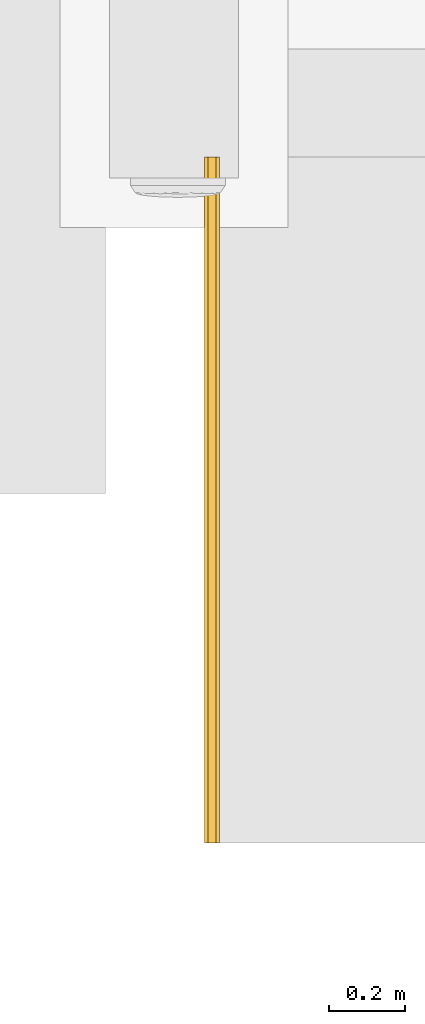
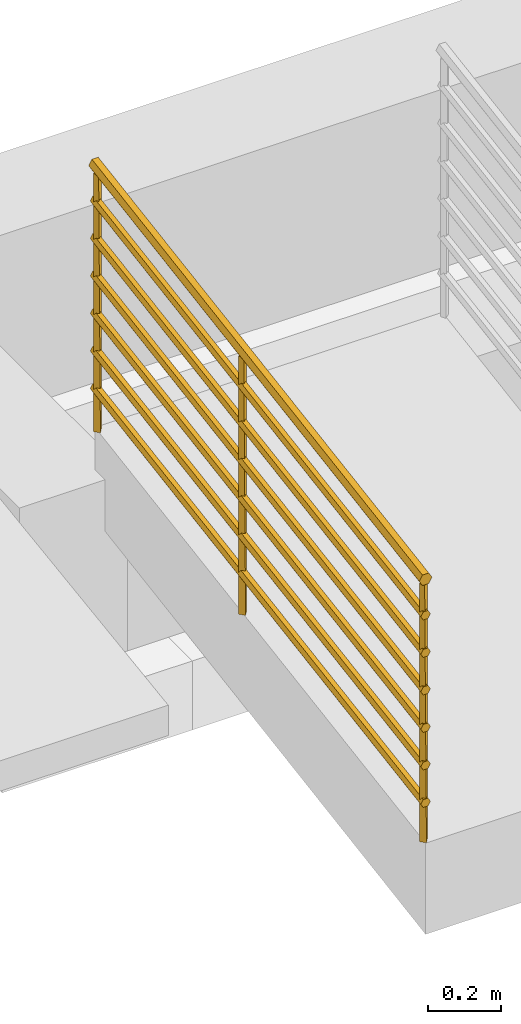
# One storey, part 3 of 8: 1 railing, 1 element without a shape of its own.
"""IFC2X3 building model written with IfcOpenShell, lengths in millimetres."""

from ifc_helpers import new_model, entity, si_unit, converted_unit, derived_unit, direction, frame, origin, place, context, subcontext, project, spatial, faceted_brep, element, aggregate, save


model = new_model("IFC2X3")

# Units and contexts
model_context = context("Model", 3, precision=0.01, world=origin(), true_north=direction((6.12303176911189e-17, 1.0)))
body_context = subcontext(model_context, "Body", "Model", "MODEL_VIEW")
ifc_project = project(units=[si_unit("LENGTHUNIT", "METRE", prefix="MILLI"), si_unit("AREAUNIT", "SQUARE_METRE"), si_unit("VOLUMEUNIT", "CUBIC_METRE"), converted_unit("PLANEANGLEUNIT", "DEGREE", entity("IfcRatioMeasure", 0.0174532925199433), si_unit("PLANEANGLEUNIT", "RADIAN"), dimensions=[0, 0, 0, 0, 0, 0, 0]), si_unit("MASSUNIT", "GRAM", prefix="KILO"), derived_unit("MASSDENSITYUNIT", [(si_unit("MASSUNIT", "GRAM", prefix="KILO"), 1), (si_unit("LENGTHUNIT", "METRE"), -3)]), si_unit("TIMEUNIT", "SECOND"), si_unit("FREQUENCYUNIT", "HERTZ"), si_unit("THERMODYNAMICTEMPERATUREUNIT", "DEGREE_CELSIUS"), derived_unit("THERMALTRANSMITTANCEUNIT", [(si_unit("MASSUNIT", "GRAM", prefix="KILO"), 1), (si_unit("THERMODYNAMICTEMPERATUREUNIT", "KELVIN"), -1), (si_unit("TIMEUNIT", "SECOND"), -3)]), derived_unit("VOLUMETRICFLOWRATEUNIT", [(si_unit("LENGTHUNIT", "METRE"), 3), (si_unit("TIMEUNIT", "SECOND"), -1)]), si_unit("ELECTRICCURRENTUNIT", "AMPERE"), si_unit("ELECTRICVOLTAGEUNIT", "VOLT"), si_unit("POWERUNIT", "WATT"), si_unit("FORCEUNIT", "NEWTON", prefix="KILO"), si_unit("ILLUMINANCEUNIT", "LUX"), si_unit("LUMINOUSFLUXUNIT", "LUMEN"), si_unit("LUMINOUSINTENSITYUNIT", "CANDELA"), derived_unit("USERDEFINED", [(si_unit("MASSUNIT", "GRAM", prefix="KILO"), -1), (si_unit("LENGTHUNIT", "METRE"), -2), (si_unit("TIMEUNIT", "SECOND"), 3), (si_unit("LUMINOUSFLUXUNIT", "LUMEN"), 1)]), derived_unit("LINEARVELOCITYUNIT", [(si_unit("LENGTHUNIT", "METRE"), 1), (si_unit("TIMEUNIT", "SECOND"), -1)]), si_unit("PRESSUREUNIT", "PASCAL"), derived_unit("USERDEFINED", [(si_unit("LENGTHUNIT", "METRE"), -2), (si_unit("MASSUNIT", "GRAM", prefix="KILO"), 1), (si_unit("TIMEUNIT", "SECOND"), -2)])], contexts=[model_context])

# Site, building, storey
site_placement = place(None, origin())
site = spatial("IfcSite", under=ifc_project, at=site_placement, Name="Surface", CompositionType="ELEMENT")
building_placement = place(site_placement, origin())
building = spatial("IfcBuilding", under=site, at=building_placement, CompositionType="ELEMENT")
storey_placement = place(building_placement, frame((0.0, 0.0, -445.0)))
storey = spatial("IfcBuildingStorey", under=building, at=storey_placement, Name="T.O.F", CompositionType="ELEMENT", Elevation=-445.0)

# Ramp, railing
ramp_placement = place(storey_placement, origin())
ramp = element("IfcRamp", 1, at=ramp_placement, inside=storey, Name="Ramp:Ramp 2", ObjectType="Ramp:Ramp 2", ShapeType="NOTDEFINED")
railing_placement = place(ramp_placement, frame((-8808.4704423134, 1829.38365159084, 443.403360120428)))
railing = element("IfcRailing", 2, at=railing_placement, Name="Railing:900mm Pipe", ObjectType="Railing:900mm Pipe", PredefinedType="NOTDEFINED", context=body_context, shape_type="Brep", body=[
    faceted_brep([(34.0952722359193, 1001.27409890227, 162.886962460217), (24.376783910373, 1013.46069780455, 1024.36362316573), (34.0952722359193, 1001.27409890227, 1022.3383542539), (18.8137605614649, 1013.46069780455, 164.912231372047), (9.09527223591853, 1001.27409890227, 162.886962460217), (9.09527223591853, 1001.27409890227, 1022.3383542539), (18.8137605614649, 989.0875, 1020.31308534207), (24.376783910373, 989.0875, 160.861693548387)], [[[0, 1, 2]], [[1, 0, 3]], [[3, 4, 5]], [[3, 5, 1]], [[5, 4, 6]], [[6, 4, 7]], [[7, 0, 2]], [[7, 2, 6]], [[2, 1, 5, 6]], [[0, 7, 4, 3]]]),
    faceted_brep([(34.0952722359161, 1793.95643756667, 290.738952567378), (24.3767839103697, 1806.14303646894, 1152.21561327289), (34.0952722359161, 1793.95643756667, 1150.19034436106), (18.8137605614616, 1806.14303646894, 292.764221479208), (9.09527223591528, 1793.95643756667, 290.738952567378), (9.09527223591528, 1793.95643756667, 1150.19034436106), (18.8137605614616, 1781.7698386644, 1148.16507544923), (24.3767839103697, 1781.7698386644, 288.713683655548)], [[[0, 1, 2]], [[1, 0, 3]], [[3, 4, 5]], [[3, 5, 1]], [[5, 4, 6]], [[6, 4, 7]], [[7, 0, 2]], [[7, 2, 6]], [[2, 1, 5, 6]], [[0, 7, 4, 3]]]),
    faceted_brep([(34.0952722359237, 13.7740989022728, 3.6127689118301), (24.3767839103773, 25.9606978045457, 865.08942961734), (34.0952722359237, 13.7740989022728, 863.06416070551), (18.8137605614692, 25.9606978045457, 5.63803782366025), (9.09527223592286, 13.7740989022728, 3.6127689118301), (9.09527223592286, 13.7740989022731, 863.06416070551), (18.8137605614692, 1.58749999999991, 861.03889179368), (24.3767839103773, 1.58749999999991, 1.58749999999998)], [[[0, 1, 2]], [[1, 0, 3]], [[3, 4, 5]], [[3, 5, 1]], [[5, 4, 6]], [[6, 4, 7]], [[7, 0, 2]], [[7, 2, 6]], [[2, 1, 5, 6]], [[0, 7, 4, 3]]]),
    faceted_brep([(29.0952722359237, 1.27409890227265, 748.244517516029), (30.9702722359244, 1.27409890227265, 751.534083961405), (32.845272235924, 1.27409890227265, 754.823650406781), (34.7202722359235, 1.27409890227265, 758.113216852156), (36.5952722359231, 1.27409890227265, 761.402783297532), (35.1180665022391, 1.27409890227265, 763.994445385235), (33.6408607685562, 1.27409890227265, 766.586107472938), (31.3680665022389, 1.27409890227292, 770.573578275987), (29.0952722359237, 1.27409890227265, 774.561049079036), (25.3452722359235, 1.27409890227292, 774.561049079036), (21.5952722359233, 1.27409890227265, 774.561049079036), (17.845272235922, 1.27409890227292, 774.561049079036), (14.0952722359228, 1.27409890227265, 774.561049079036), (12.2202722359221, 1.27409890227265, 771.27148263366), (10.3452722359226, 1.27409890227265, 767.981916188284), (8.07247796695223, 1.27409890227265, 763.994445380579), (6.59527223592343, 1.27409890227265, 761.402783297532), (8.47027223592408, 1.27409890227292, 758.113216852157), (10.3452722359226, 1.27409890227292, 754.823650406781), (12.2202722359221, 1.27409890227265, 751.534083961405), (14.0952722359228, 1.27409890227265, 748.244517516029), (17.845272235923, 1.27409890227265, 748.244517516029), (21.5952722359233, 1.27409890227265, 748.244517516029), (25.3452722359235, 1.27409890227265, 748.244517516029), (11.8224779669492, 1806.45643756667, 1043.39043004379), (9.54968369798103, 1806.45643756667, 1047.37790085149), (8.07247796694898, 1806.45643756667, 1049.96956293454), (6.59527223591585, 1806.45643756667, 1052.5612250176), (8.47027223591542, 1806.45643756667, 1055.85079146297), (10.3452722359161, 1806.45643756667, 1059.14035790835), (12.2202722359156, 1806.45643756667, 1062.42992435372), (14.0952722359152, 1806.45643756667, 1065.7194907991), (17.8452722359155, 1806.45643756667, 1065.7194907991), (21.5952722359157, 1806.45643756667, 1065.7194907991), (25.3452722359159, 1806.45643756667, 1065.7194907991), (29.0952722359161, 1806.45643756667, 1065.7194907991), (30.9702722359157, 1806.45643756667, 1062.42992435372), (32.8452722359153, 1806.45643756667, 1059.14035790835), (34.7202722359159, 1806.45643756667, 1055.85079146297), (36.5952722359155, 1806.45643756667, 1052.5612250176), (35.1180665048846, 1806.45643756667, 1049.96956293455), (32.8452722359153, 1806.45643756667, 1045.98209212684), (30.9702722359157, 1806.45643756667, 1042.69252568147), (29.0952722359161, 1806.45643756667, 1039.40295923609), (25.3452722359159, 1806.45643756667, 1039.40295923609), (21.5952722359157, 1806.45643756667, 1039.40295923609), (17.8452722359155, 1806.45643756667, 1039.40295923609), (14.0952722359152, 1806.45643756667, 1039.40295923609)], [[[0, 1, 2, 3, 4, 5, 6, 7, 8, 9, 10, 11, 12, 13, 14, 15, 16, 17, 18, 19, 20, 21, 22, 23]], [[24, 25, 26, 27, 28, 29, 30, 31, 32, 33, 34, 35, 36, 37, 38, 39, 40, 41, 42, 43, 44, 45, 46, 47]], [[47, 20, 19, 18, 17, 16, 27, 26, 25, 24]], [[44, 43, 0, 23, 22, 21, 20, 47, 46, 45]], [[40, 39, 4, 3, 2, 1, 0, 43, 42, 41]], [[8, 7, 6, 5, 4, 39, 38, 37, 36, 35]], [[28, 27, 16, 15, 14, 13, 12, 31, 30, 29]], [[10, 9, 8, 35, 34, 33, 32, 31, 12, 11]]]),
    faceted_brep([(29.0952722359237, 1.27409890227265, 623.244517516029), (30.9702722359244, 1.27409890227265, 626.534083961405), (32.845272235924, 1.27409890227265, 629.823650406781), (34.7202722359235, 1.27409890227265, 633.113216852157), (36.5952722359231, 1.27409890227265, 636.402783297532), (35.1180665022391, 1.27409890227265, 638.994445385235), (33.6408607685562, 1.27409890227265, 641.586107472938), (31.3680665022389, 1.27409890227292, 645.573578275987), (29.0952722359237, 1.27409890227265, 649.561049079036), (25.3452722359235, 1.27409890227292, 649.561049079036), (21.5952722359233, 1.27409890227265, 649.561049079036), (17.845272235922, 1.27409890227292, 649.561049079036), (14.0952722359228, 1.27409890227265, 649.561049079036), (12.2202722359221, 1.27409890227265, 646.27148263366), (10.3452722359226, 1.27409890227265, 642.981916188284), (8.07247796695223, 1.27409890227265, 638.994445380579), (6.59527223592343, 1.27409890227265, 636.402783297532), (8.47027223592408, 1.27409890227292, 633.113216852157), (10.3452722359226, 1.27409890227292, 629.823650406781), (12.2202722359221, 1.27409890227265, 626.534083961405), (14.0952722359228, 1.27409890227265, 623.244517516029), (17.845272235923, 1.27409890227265, 623.244517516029), (21.5952722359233, 1.27409890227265, 623.244517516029), (25.3452722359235, 1.27409890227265, 623.244517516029), (11.8224779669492, 1806.45643756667, 918.390430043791), (9.54968369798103, 1806.45643756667, 922.37790085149), (8.07247796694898, 1806.45643756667, 924.969562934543), (6.59527223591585, 1806.45643756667, 927.561225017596), (8.47027223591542, 1806.45643756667, 930.850791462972), (10.3452722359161, 1806.45643756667, 934.140357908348), (12.2202722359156, 1806.45643756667, 937.429924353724), (14.0952722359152, 1806.45643756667, 940.7194907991), (17.8452722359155, 1806.45643756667, 940.7194907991), (21.5952722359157, 1806.45643756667, 940.7194907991), (25.3452722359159, 1806.45643756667, 940.7194907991), (29.0952722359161, 1806.45643756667, 940.7194907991), (30.9702722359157, 1806.45643756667, 937.429924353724), (32.8452722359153, 1806.45643756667, 934.140357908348), (34.7202722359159, 1806.45643756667, 930.850791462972), (36.5952722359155, 1806.45643756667, 927.561225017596), (35.1180665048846, 1806.45643756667, 924.969562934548), (32.8452722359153, 1806.45643756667, 920.982092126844), (30.9702722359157, 1806.45643756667, 917.692525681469), (29.0952722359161, 1806.45643756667, 914.402959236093), (25.3452722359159, 1806.45643756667, 914.402959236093), (21.5952722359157, 1806.45643756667, 914.402959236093), (17.8452722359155, 1806.45643756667, 914.402959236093), (14.0952722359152, 1806.45643756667, 914.402959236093)], [[[0, 1, 2, 3, 4, 5, 6, 7, 8, 9, 10, 11, 12, 13, 14, 15, 16, 17, 18, 19, 20, 21, 22, 23]], [[24, 25, 26, 27, 28, 29, 30, 31, 32, 33, 34, 35, 36, 37, 38, 39, 40, 41, 42, 43, 44, 45, 46, 47]], [[47, 20, 19, 18, 17, 16, 27, 26, 25, 24]], [[44, 43, 0, 23, 22, 21, 20, 47, 46, 45]], [[40, 39, 4, 3, 2, 1, 0, 43, 42, 41]], [[8, 7, 6, 5, 4, 39, 38, 37, 36, 35]], [[28, 27, 16, 15, 14, 13, 12, 31, 30, 29]], [[10, 9, 8, 35, 34, 33, 32, 31, 12, 11]]]),
    faceted_brep([(29.0952722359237, 1.27409890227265, 498.244517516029), (30.9702722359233, 1.27409890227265, 501.534083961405), (32.845272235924, 1.27409890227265, 504.823650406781), (34.7202722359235, 1.27409890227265, 508.113216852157), (36.5952722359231, 1.27409890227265, 511.402783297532), (35.1180665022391, 1.27409890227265, 513.994445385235), (33.6408607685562, 1.27409890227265, 516.586107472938), (31.36806650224, 1.27409890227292, 520.573578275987), (29.0952722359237, 1.27409890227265, 524.561049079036), (25.3452722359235, 1.27409890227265, 524.561049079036), (21.5952722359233, 1.27409890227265, 524.561049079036), (17.845272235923, 1.27409890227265, 524.561049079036), (14.0952722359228, 1.27409890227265, 524.561049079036), (12.2202722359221, 1.27409890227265, 521.27148263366), (10.3452722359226, 1.27409890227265, 517.981916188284), (8.07247796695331, 1.27409890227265, 513.994445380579), (6.59527223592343, 1.27409890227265, 511.402783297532), (8.47027223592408, 1.27409890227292, 508.113216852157), (10.3452722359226, 1.27409890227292, 504.823650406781), (12.2202722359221, 1.27409890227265, 501.534083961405), (14.0952722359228, 1.27409890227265, 498.244517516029), (17.845272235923, 1.27409890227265, 498.244517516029), (21.5952722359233, 1.27409890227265, 498.244517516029), (25.3452722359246, 1.27409890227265, 498.244517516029), (11.8224779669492, 1806.45643756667, 793.390430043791), (9.54968369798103, 1806.45643756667, 797.37790085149), (8.07247796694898, 1806.45643756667, 799.969562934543), (6.59527223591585, 1806.45643756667, 802.561225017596), (8.47027223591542, 1806.45643756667, 805.850791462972), (10.3452722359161, 1806.45643756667, 809.140357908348), (12.2202722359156, 1806.45643756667, 812.429924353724), (14.0952722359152, 1806.45643756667, 815.7194907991), (17.8452722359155, 1806.45643756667, 815.7194907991), (21.5952722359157, 1806.45643756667, 815.7194907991), (25.3452722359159, 1806.45643756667, 815.7194907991), (29.0952722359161, 1806.45643756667, 815.7194907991), (30.9702722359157, 1806.45643756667, 812.429924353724), (32.8452722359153, 1806.45643756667, 809.140357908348), (34.7202722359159, 1806.45643756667, 805.850791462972), (36.5952722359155, 1806.45643756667, 802.561225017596), (35.1180665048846, 1806.45643756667, 799.969562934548), (32.8452722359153, 1806.45643756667, 795.982092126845), (30.9702722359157, 1806.45643756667, 792.692525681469), (29.0952722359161, 1806.45643756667, 789.402959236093), (25.3452722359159, 1806.45643756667, 789.402959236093), (21.5952722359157, 1806.45643756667, 789.402959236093), (17.8452722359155, 1806.45643756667, 789.402959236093), (14.0952722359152, 1806.45643756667, 789.402959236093)], [[[0, 1, 2, 3, 4, 5, 6, 7, 8, 9, 10, 11, 12, 13, 14, 15, 16, 17, 18, 19, 20, 21, 22, 23]], [[24, 25, 26, 27, 28, 29, 30, 31, 32, 33, 34, 35, 36, 37, 38, 39, 40, 41, 42, 43, 44, 45, 46, 47]], [[47, 20, 19, 18, 17, 16, 27, 26, 25, 24]], [[44, 43, 0, 23, 22, 21, 20, 47, 46, 45]], [[40, 39, 4, 3, 2, 1, 0, 43, 42, 41]], [[8, 7, 6, 5, 4, 39, 38, 37, 36, 35]], [[28, 27, 16, 15, 14, 13, 12, 31, 30, 29]], [[10, 9, 8, 35, 34, 33, 32, 31, 12, 11]]]),
    faceted_brep([(29.0952722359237, 1.27409890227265, 373.244517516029), (30.9702722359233, 1.27409890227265, 376.534083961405), (32.845272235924, 1.27409890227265, 379.823650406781), (34.7202722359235, 1.27409890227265, 383.113216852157), (36.5952722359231, 1.27409890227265, 386.402783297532), (35.1180665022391, 1.27409890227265, 388.994445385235), (33.6408607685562, 1.27409890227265, 391.586107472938), (31.36806650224, 1.27409890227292, 395.573578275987), (29.0952722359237, 1.27409890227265, 399.561049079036), (25.3452722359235, 1.27409890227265, 399.561049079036), (21.5952722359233, 1.27409890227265, 399.561049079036), (17.845272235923, 1.27409890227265, 399.561049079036), (14.0952722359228, 1.27409890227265, 399.561049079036), (12.2202722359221, 1.27409890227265, 396.27148263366), (10.3452722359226, 1.27409890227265, 392.981916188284), (8.07247796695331, 1.27409890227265, 388.994445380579), (6.59527223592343, 1.27409890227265, 386.402783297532), (8.47027223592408, 1.27409890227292, 383.113216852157), (10.3452722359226, 1.27409890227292, 379.823650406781), (12.2202722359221, 1.27409890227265, 376.534083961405), (14.0952722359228, 1.27409890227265, 373.244517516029), (17.845272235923, 1.27409890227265, 373.244517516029), (21.5952722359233, 1.27409890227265, 373.244517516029), (25.3452722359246, 1.27409890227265, 373.244517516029), (11.8224779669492, 1806.45643756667, 668.390430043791), (9.54968369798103, 1806.45643756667, 672.37790085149), (8.07247796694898, 1806.45643756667, 674.969562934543), (6.59527223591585, 1806.45643756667, 677.561225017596), (8.47027223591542, 1806.45643756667, 680.850791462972), (10.3452722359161, 1806.45643756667, 684.140357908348), (12.2202722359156, 1806.45643756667, 687.429924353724), (14.0952722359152, 1806.45643756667, 690.7194907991), (17.8452722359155, 1806.45643756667, 690.7194907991), (21.5952722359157, 1806.45643756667, 690.7194907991), (25.3452722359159, 1806.45643756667, 690.7194907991), (29.0952722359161, 1806.45643756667, 690.7194907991), (30.9702722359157, 1806.45643756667, 687.429924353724), (32.8452722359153, 1806.45643756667, 684.140357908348), (34.7202722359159, 1806.45643756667, 680.850791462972), (36.5952722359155, 1806.45643756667, 677.561225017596), (35.1180665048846, 1806.45643756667, 674.969562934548), (32.8452722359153, 1806.45643756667, 670.982092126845), (30.9702722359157, 1806.45643756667, 667.692525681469), (29.0952722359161, 1806.45643756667, 664.402959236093), (25.3452722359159, 1806.45643756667, 664.402959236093), (21.5952722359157, 1806.45643756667, 664.402959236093), (17.8452722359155, 1806.45643756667, 664.402959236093), (14.0952722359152, 1806.45643756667, 664.402959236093)], [[[0, 1, 2, 3, 4, 5, 6, 7, 8, 9, 10, 11, 12, 13, 14, 15, 16, 17, 18, 19, 20, 21, 22, 23]], [[24, 25, 26, 27, 28, 29, 30, 31, 32, 33, 34, 35, 36, 37, 38, 39, 40, 41, 42, 43, 44, 45, 46, 47]], [[47, 20, 19, 18, 17, 16, 27, 26, 25, 24]], [[44, 43, 0, 23, 22, 21, 20, 47, 46, 45]], [[40, 39, 4, 3, 2, 1, 0, 43, 42, 41]], [[8, 7, 6, 5, 4, 39, 38, 37, 36, 35]], [[28, 27, 16, 15, 14, 13, 12, 31, 30, 29]], [[10, 9, 8, 35, 34, 33, 32, 31, 12, 11]]]),
    faceted_brep([(29.0952722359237, 1.27409890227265, 248.244517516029), (30.9702722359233, 1.27409890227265, 251.534083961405), (32.845272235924, 1.27409890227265, 254.823650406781), (34.7202722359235, 1.27409890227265, 258.113216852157), (36.5952722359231, 1.27409890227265, 261.402783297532), (35.1180665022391, 1.27409890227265, 263.994445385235), (33.6408607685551, 1.27409890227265, 266.586107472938), (31.36806650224, 1.27409890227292, 270.573578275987), (29.0952722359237, 1.27409890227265, 274.561049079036), (25.3452722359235, 1.27409890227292, 274.561049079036), (21.5952722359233, 1.27409890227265, 274.561049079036), (17.845272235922, 1.27409890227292, 274.561049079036), (14.0952722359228, 1.27409890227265, 274.561049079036), (12.2202722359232, 1.27409890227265, 271.27148263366), (10.3452722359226, 1.27409890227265, 267.981916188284), (8.07247796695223, 1.27409890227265, 263.994445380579), (6.59527223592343, 1.27409890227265, 261.402783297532), (8.47027223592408, 1.27409890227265, 258.113216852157), (10.3452722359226, 1.27409890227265, 254.823650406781), (12.2202722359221, 1.27409890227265, 251.534083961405), (14.0952722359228, 1.27409890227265, 248.244517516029), (17.845272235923, 1.27409890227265, 248.244517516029), (21.5952722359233, 1.27409890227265, 248.244517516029), (25.3452722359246, 1.27409890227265, 248.244517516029), (11.8224779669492, 1806.45643756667, 543.390430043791), (9.5496836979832, 1806.45643756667, 547.37790085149), (8.07247796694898, 1806.45643756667, 549.969562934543), (6.59527223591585, 1806.45643756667, 552.561225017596), (8.47027223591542, 1806.45643756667, 555.850791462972), (10.3452722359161, 1806.45643756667, 559.140357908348), (12.2202722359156, 1806.45643756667, 562.429924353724), (14.0952722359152, 1806.45643756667, 565.7194907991), (17.8452722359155, 1806.45643756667, 565.7194907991), (21.5952722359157, 1806.45643756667, 565.7194907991), (25.3452722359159, 1806.45643756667, 565.7194907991), (29.0952722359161, 1806.45643756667, 565.7194907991), (30.9702722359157, 1806.45643756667, 562.429924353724), (32.8452722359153, 1806.45643756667, 559.140357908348), (34.7202722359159, 1806.45643756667, 555.850791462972), (36.5952722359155, 1806.45643756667, 552.561225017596), (35.1180665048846, 1806.45643756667, 549.969562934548), (32.8452722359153, 1806.45643756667, 545.982092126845), (30.9702722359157, 1806.45643756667, 542.692525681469), (29.0952722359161, 1806.45643756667, 539.402959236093), (25.3452722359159, 1806.45643756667, 539.402959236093), (21.5952722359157, 1806.45643756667, 539.402959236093), (17.8452722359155, 1806.45643756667, 539.402959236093), (14.0952722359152, 1806.45643756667, 539.402959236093)], [[[0, 1, 2, 3, 4, 5, 6, 7, 8, 9, 10, 11, 12, 13, 14, 15, 16, 17, 18, 19, 20, 21, 22, 23]], [[24, 25, 26, 27, 28, 29, 30, 31, 32, 33, 34, 35, 36, 37, 38, 39, 40, 41, 42, 43, 44, 45, 46, 47]], [[47, 20, 19, 18, 17, 16, 27, 26, 25, 24]], [[44, 43, 0, 23, 22, 21, 20, 47, 46, 45]], [[40, 39, 4, 3, 2, 1, 0, 43, 42, 41]], [[8, 7, 6, 5, 4, 39, 38, 37, 36, 35]], [[28, 27, 16, 15, 14, 13, 12, 31, 30, 29]], [[10, 9, 8, 35, 34, 33, 32, 31, 12, 11]]]),
    faceted_brep([(29.0952722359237, 1.27409890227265, 123.244517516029), (30.9702722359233, 1.27409890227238, 126.534083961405), (32.845272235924, 1.27409890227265, 129.823650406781), (34.7202722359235, 1.27409890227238, 133.113216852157), (36.5952722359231, 1.27409890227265, 136.402783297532), (35.1180665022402, 1.27409890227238, 138.994445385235), (33.6408607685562, 1.27409890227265, 141.586107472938), (31.3680665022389, 1.27409890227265, 145.573578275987), (29.0952722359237, 1.27409890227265, 149.561049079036), (25.3452722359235, 1.27409890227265, 149.561049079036), (21.5952722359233, 1.27409890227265, 149.561049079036), (17.845272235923, 1.27409890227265, 149.561049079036), (14.0952722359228, 1.27409890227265, 149.561049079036), (12.2202722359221, 1.27409890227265, 146.27148263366), (10.3452722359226, 1.27409890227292, 142.981916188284), (8.07247796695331, 1.27409890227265, 138.994445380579), (6.59527223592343, 1.27409890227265, 136.402783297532), (8.470272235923, 1.27409890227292, 133.113216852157), (10.3452722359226, 1.27409890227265, 129.823650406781), (12.2202722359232, 1.27409890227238, 126.534083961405), (14.0952722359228, 1.27409890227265, 123.244517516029), (17.845272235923, 1.27409890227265, 123.244517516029), (21.5952722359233, 1.27409890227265, 123.244517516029), (25.3452722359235, 1.27409890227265, 123.244517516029), (11.8224779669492, 1806.45643756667, 418.390430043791), (9.5496836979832, 1806.45643756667, 422.37790085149), (8.07247796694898, 1806.45643756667, 424.969562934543), (6.59527223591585, 1806.45643756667, 427.561225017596), (8.47027223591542, 1806.45643756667, 430.850791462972), (10.3452722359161, 1806.45643756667, 434.140357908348), (12.2202722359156, 1806.45643756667, 437.429924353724), (14.0952722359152, 1806.45643756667, 440.7194907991), (17.8452722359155, 1806.45643756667, 440.7194907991), (21.5952722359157, 1806.45643756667, 440.7194907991), (25.3452722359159, 1806.45643756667, 440.7194907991), (29.0952722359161, 1806.45643756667, 440.7194907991), (30.9702722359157, 1806.45643756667, 437.429924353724), (32.8452722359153, 1806.45643756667, 434.140357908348), (34.7202722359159, 1806.45643756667, 430.850791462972), (36.5952722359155, 1806.45643756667, 427.561225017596), (35.1180665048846, 1806.45643756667, 424.969562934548), (32.8452722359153, 1806.45643756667, 420.982092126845), (30.9702722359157, 1806.45643756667, 417.692525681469), (29.0952722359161, 1806.45643756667, 414.402959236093), (25.3452722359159, 1806.45643756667, 414.402959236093), (21.5952722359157, 1806.45643756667, 414.402959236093), (17.8452722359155, 1806.45643756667, 414.402959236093), (14.0952722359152, 1806.45643756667, 414.402959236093)], [[[0, 1, 2, 3, 4, 5, 6, 7, 8, 9, 10, 11, 12, 13, 14, 15, 16, 17, 18, 19, 20, 21, 22, 23]], [[24, 25, 26, 27, 28, 29, 30, 31, 32, 33, 34, 35, 36, 37, 38, 39, 40, 41, 42, 43, 44, 45, 46, 47]], [[47, 20, 19, 18, 17, 16, 27, 26, 25, 24]], [[44, 43, 0, 23, 22, 21, 20, 47, 46, 45]], [[40, 39, 4, 3, 2, 1, 0, 43, 42, 41]], [[8, 7, 6, 5, 4, 39, 38, 37, 36, 35]], [[28, 27, 16, 15, 14, 13, 12, 31, 30, 29]], [[10, 9, 8, 35, 34, 33, 32, 31, 12, 11]]]),
    faceted_brep([(34.0952722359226, 1.27409890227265, 868.179898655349), (36.5952722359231, 1.27409890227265, 872.565987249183), (39.0952722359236, 1.27409890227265, 876.952075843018), (41.595272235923, 1.27409890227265, 881.338164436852), (39.3219666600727, 1.27409890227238, 885.326532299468), (37.0486610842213, 1.27409890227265, 889.314900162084), (34.3219666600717, 1.27409890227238, 894.098709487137), (31.5952722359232, 1.27409890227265, 898.882518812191), (26.5952722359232, 1.27409890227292, 898.882518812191), (21.5952722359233, 1.27409890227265, 898.882518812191), (16.5952722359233, 1.27409890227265, 898.882518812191), (11.5952722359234, 1.27409890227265, 898.882518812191), (9.09527223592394, 1.27409890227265, 894.496430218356), (6.59527223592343, 1.27409890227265, 890.110341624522), (3.86857781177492, 1.27409890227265, 885.326532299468), (1.59527223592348, 1.27409890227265, 881.338164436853), (4.09527223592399, 1.27409890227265, 876.952075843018), (6.59527223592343, 1.27409890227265, 872.565987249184), (9.09527223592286, 1.27409890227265, 868.179898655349), (11.5952722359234, 1.27409890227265, 863.793810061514), (16.5952722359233, 1.27409890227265, 863.793810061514), (21.5952722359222, 1.27409890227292, 863.793810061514), (26.5952722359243, 1.27409890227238, 863.793810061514), (31.5952722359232, 1.27409890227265, 863.793810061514), (11.5952722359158, 1806.45643756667, 1154.95225178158), (8.86857781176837, 1806.45643756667, 1159.73606110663), (6.14188338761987, 1806.45643756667, 1164.51987043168), (3.86857781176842, 1806.45643756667, 1168.5082382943), (1.5952722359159, 1806.45643756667, 1172.49660615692), (4.09527223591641, 1806.45643756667, 1176.88269475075), (6.59527223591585, 1806.45643756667, 1181.26878334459), (9.09527223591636, 1806.45643756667, 1185.65487193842), (11.5952722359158, 1806.45643756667, 1190.04096053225), (16.5952722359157, 1806.45643756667, 1190.04096053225), (21.5952722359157, 1806.45643756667, 1190.04096053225), (26.5952722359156, 1806.45643756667, 1190.04096053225), (31.5952722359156, 1806.45643756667, 1190.04096053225), (34.095272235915, 1806.45643756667, 1185.65487193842), (36.5952722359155, 1806.45643756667, 1181.26878334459), (39.095272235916, 1806.45643756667, 1176.88269475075), (41.5952722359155, 1806.45643756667, 1172.49660615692), (39.321966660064, 1806.45643756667, 1168.5082382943), (36.5952722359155, 1806.45643756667, 1163.72442896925), (34.095272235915, 1806.45643756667, 1159.33834037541), (31.5952722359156, 1806.45643756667, 1154.95225178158), (26.5952722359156, 1806.45643756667, 1154.95225178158), (21.5952722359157, 1806.45643756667, 1154.95225178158), (16.5952722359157, 1806.45643756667, 1154.95225178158)], [[[0, 1, 2, 3, 4, 5, 6, 7, 8, 9, 10, 11, 12, 13, 14, 15, 16, 17, 18, 19, 20, 21, 22, 23]], [[24, 25, 26, 27, 28, 29, 30, 31, 32, 33, 34, 35, 36, 37, 38, 39, 40, 41, 42, 43, 44, 45, 46, 47]], [[5, 4, 3, 40, 39, 38, 37, 36, 7, 6]], [[13, 12, 11, 32, 31, 30, 29, 28, 15, 14]], [[9, 8, 7, 36, 35, 34, 33, 32, 11, 10]], [[17, 16, 15, 28, 27, 26, 25, 24, 19, 18]], [[45, 44, 23, 22, 21, 20, 19, 24, 47, 46]], [[41, 40, 3, 2, 1, 0, 23, 44, 43, 42]]]),
])
aggregate(ramp, [railing])

save(model, "model.ifc")
